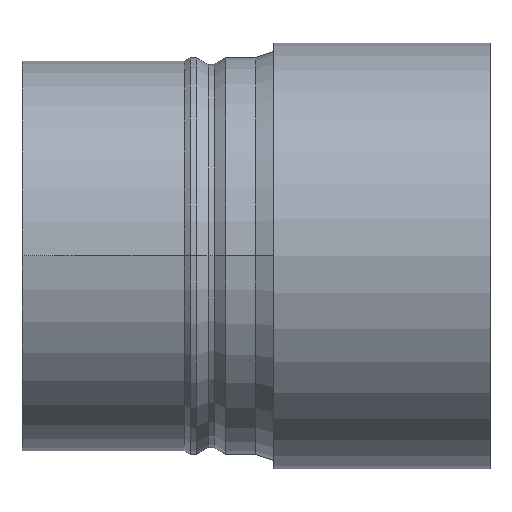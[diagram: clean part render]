
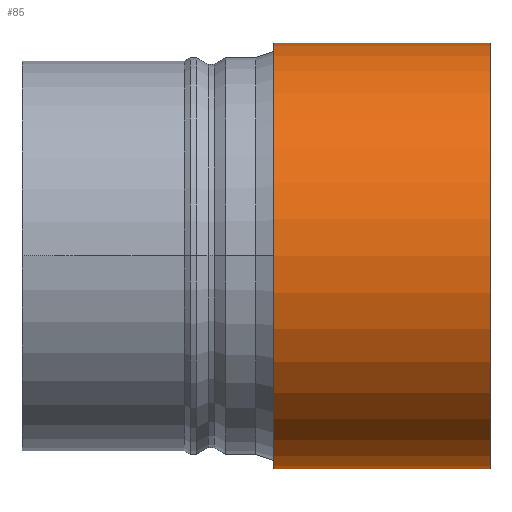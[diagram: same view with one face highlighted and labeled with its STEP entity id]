
A CAD part, top view. The second image highlights one B-rep face of the part: STEP entity #85.
In plain terms, the highlighted cylindrical face has radius 35.5 mm (diameter 71 mm), a partial arc.
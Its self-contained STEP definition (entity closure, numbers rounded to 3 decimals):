
#12 = CIRCLE ( 'NONE', #476, 35.5 ) ;
#25 = ORIENTED_EDGE ( 'NONE', *, *, #107, .T. ) ;
#85 = ADVANCED_FACE ( 'NONE', ( #535 ), #510, .T. ) ;
#86 = ORIENTED_EDGE ( 'NONE', *, *, #298, .T. ) ;
#106 = DIRECTION ( 'NONE',  ( 0., 1., 0. ) ) ;
#107 = EDGE_CURVE ( 'NONE', #218, #212, #12, .T. ) ;
#121 = CARTESIAN_POINT ( 'NONE',  ( 78., 0., 0. ) ) ;
#122 = EDGE_LOOP ( 'NONE', ( #185, #86, #25, #156 ) ) ;
#156 = ORIENTED_EDGE ( 'NONE', *, *, #391, .F. ) ;
#158 = VECTOR ( 'NONE', #307, 1000. ) ;
#162 = DIRECTION ( 'NONE',  ( 1., 0., 0. ) ) ;
#174 = CARTESIAN_POINT ( 'NONE',  ( 42., -35.5, 0. ) ) ;
#184 = DIRECTION ( 'NONE',  ( 0., -1., 0. ) ) ;
#185 = ORIENTED_EDGE ( 'NONE', *, *, #451, .F. ) ;
#205 = CARTESIAN_POINT ( 'NONE',  ( 78., 35.5, 0. ) ) ;
#209 = CARTESIAN_POINT ( 'NONE',  ( 78., -35.5, 0. ) ) ;
#212 = VERTEX_POINT ( 'NONE', #174 ) ;
#218 = VERTEX_POINT ( 'NONE', #546 ) ;
#283 = VECTOR ( 'NONE', #587, 1000. ) ;
#295 = AXIS2_PLACEMENT_3D ( 'NONE', #390, #162, #106 ) ;
#298 = EDGE_CURVE ( 'NONE', #414, #218, #461, .T. ) ;
#302 = CARTESIAN_POINT ( 'NONE',  ( 78., 35.5, 0. ) ) ;
#307 = DIRECTION ( 'NONE',  ( -1., 0., 0. ) ) ;
#316 = DIRECTION ( 'NONE',  ( 1., 0., 0. ) ) ;
#338 = CARTESIAN_POINT ( 'NONE',  ( 78., -35.5, 0. ) ) ;
#352 = DIRECTION ( 'NONE',  ( -1., 0., 0. ) ) ;
#390 = CARTESIAN_POINT ( 'NONE',  ( 78., 0., 0. ) ) ;
#391 = EDGE_CURVE ( 'NONE', #455, #212, #531, .T. ) ;
#404 = CIRCLE ( 'NONE', #295, 35.5 ) ;
#414 = VERTEX_POINT ( 'NONE', #205 ) ;
#451 = EDGE_CURVE ( 'NONE', #414, #455, #404, .T. ) ;
#455 = VERTEX_POINT ( 'NONE', #338 ) ;
#461 = LINE ( 'NONE', #302, #158 ) ;
#476 = AXIS2_PLACEMENT_3D ( 'NONE', #643, #316, #599 ) ;
#507 = AXIS2_PLACEMENT_3D ( 'NONE', #121, #352, #184 ) ;
#510 = CYLINDRICAL_SURFACE ( 'NONE', #507, 35.5 ) ;
#531 = LINE ( 'NONE', #209, #283 ) ;
#535 = FACE_OUTER_BOUND ( 'NONE', #122, .T. ) ;
#546 = CARTESIAN_POINT ( 'NONE',  ( 42., 35.5, 0. ) ) ;
#587 = DIRECTION ( 'NONE',  ( -1., 0., 0. ) ) ;
#599 = DIRECTION ( 'NONE',  ( 0., 1., 0. ) ) ;
#643 = CARTESIAN_POINT ( 'NONE',  ( 42., 0., 0. ) ) ;
